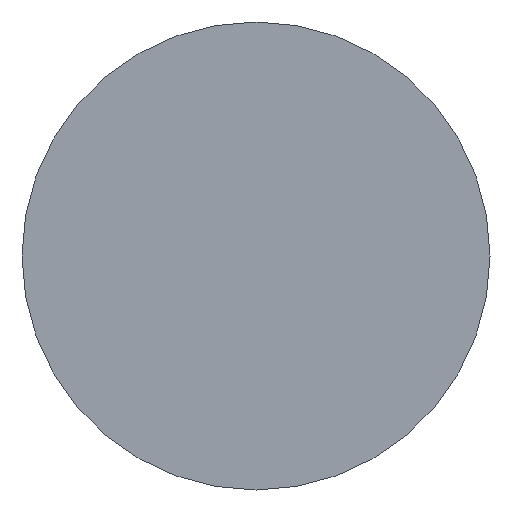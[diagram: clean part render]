
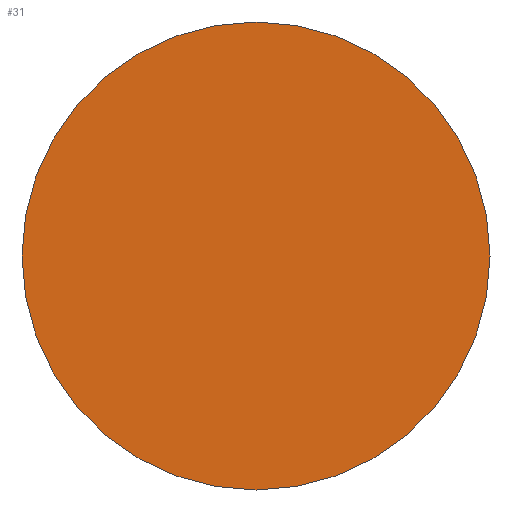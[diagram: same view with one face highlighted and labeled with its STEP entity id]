
A CAD part, front view. The second image highlights one B-rep face of the part: STEP entity #31.
In plain terms, the highlighted planar face has unit normal (0, -1, 0).
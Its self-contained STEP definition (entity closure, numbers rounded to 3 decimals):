
#31 = ADVANCED_FACE( '', ( #62 ), #63, .F. );
#62 = FACE_OUTER_BOUND( '', #95, .T. );
#63 = PLANE( '', #96 );
#95 = EDGE_LOOP( '', ( #122 ) );
#96 = AXIS2_PLACEMENT_3D( '', #123, #124, #125 );
#122 = ORIENTED_EDGE( '', *, *, #162, .F. );
#123 = CARTESIAN_POINT( '', ( 0., -20., 0. ) );
#124 = DIRECTION( '', ( 0., 1., 0. ) );
#125 = DIRECTION( '', ( 0., 0., 1. ) );
#162 = EDGE_CURVE( '', #175, #175, #176, .T. );
#175 = VERTEX_POINT( '', #194 );
#176 = CIRCLE( '', #195, 28.5 );
#194 = CARTESIAN_POINT( '', ( 28.5, -20., 0. ) );
#195 = AXIS2_PLACEMENT_3D( '', #212, #213, #214 );
#212 = CARTESIAN_POINT( '', ( 0., -20., 0. ) );
#213 = DIRECTION( '', ( 0., 1., 0. ) );
#214 = DIRECTION( '', ( 1., 0., 0. ) );
